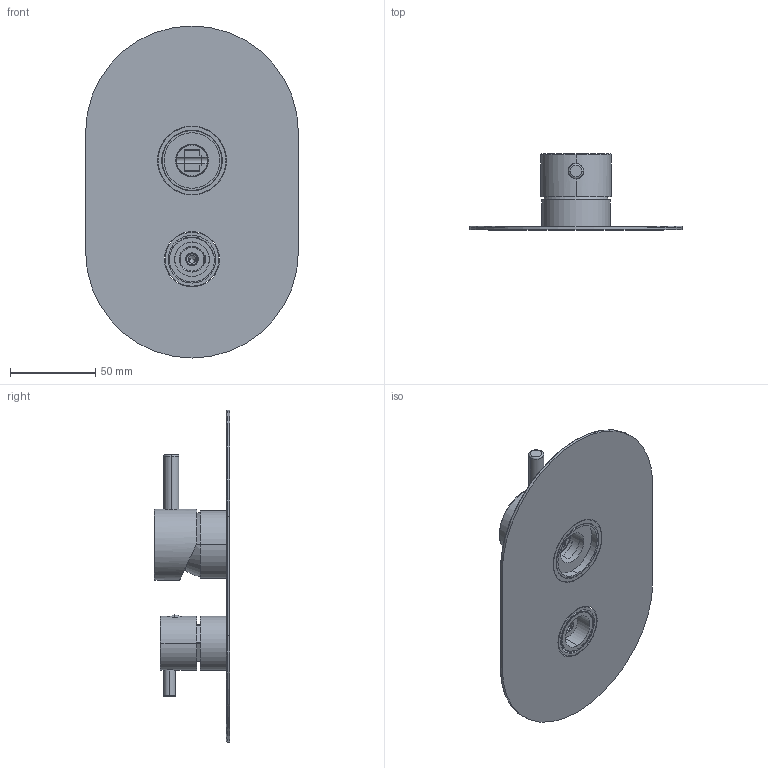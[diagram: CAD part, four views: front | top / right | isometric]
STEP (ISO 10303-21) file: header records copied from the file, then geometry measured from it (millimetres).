
FILE_DESCRIPTION((''),'2;1');
FILE_NAME('12531_SW0001','2024-03-19T13:58:54',('carloff'),(''),'CREO PARAMETRIC BY PTC INC, 2022014','CREO PARAMETRIC BY PTC INC, 2022014','');
FILE_SCHEMA(('CONFIG_CONTROL_DESIGN'));
Products named in the file (1): 12531_SW0001
Bounding box: 125 x 44.5 x 195 mm (x, y, z)
Volume: 88581.4 mm3; surface area: 86133.9 mm2
Topology: 6 solids, 6 shells, 907 faces, 2544 edges, 1627 vertices
Faces by surface type: cylinder 339, plane 264, cone 115, bspline 103, torus 72, sphere 14
Entity records: 73391 total; most frequent: CARTESIAN_POINT 51148, ORIENTED_EDGE 5036, DIRECTION 4152, EDGE_CURVE 2518, VERTEX_POINT 1627, AXIS2_PLACEMENT_3D 1558, VECTOR 1036, LINE 1036
